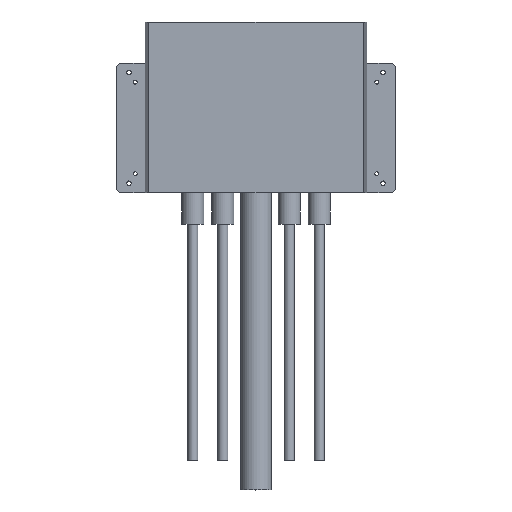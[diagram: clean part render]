
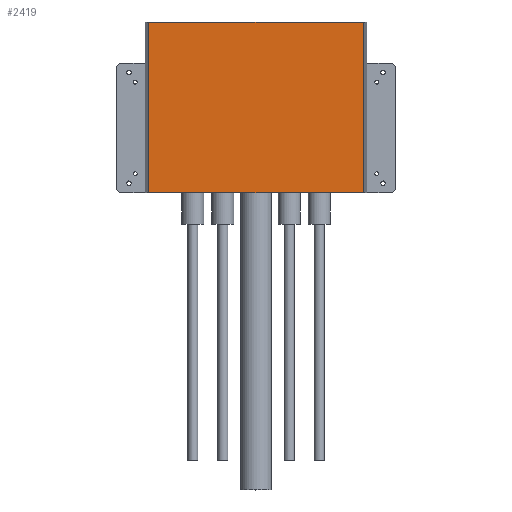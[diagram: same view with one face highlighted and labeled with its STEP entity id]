
A CAD part, top view. The second image highlights one B-rep face of the part: STEP entity #2419.
In plain terms, the highlighted planar face has unit normal (0, 0, 1) as drawn and (-1, 0, 0) by its records, which use the part's own axes.
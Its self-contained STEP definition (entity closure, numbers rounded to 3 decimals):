
#183=PLANE('',#2762);
#297=FACE_OUTER_BOUND('',#463,.T.);
#463=EDGE_LOOP('',(#1852,#1853,#1854,#1855));
#626=LINE('',#3724,#859);
#627=LINE('',#3727,#860);
#630=LINE('',#3743,#863);
#631=LINE('',#3744,#864);
#859=VECTOR('',#3090,10.);
#860=VECTOR('',#3093,10.);
#863=VECTOR('',#3108,10.);
#864=VECTOR('',#3109,10.);
#1179=VERTEX_POINT('',#3718);
#1181=VERTEX_POINT('',#3722);
#1182=VERTEX_POINT('',#3726);
#1189=VERTEX_POINT('',#3742);
#1430=EDGE_CURVE('',#1179,#1181,#626,.T.);
#1431=EDGE_CURVE('',#1182,#1179,#627,.T.);
#1439=EDGE_CURVE('',#1181,#1189,#630,.T.);
#1440=EDGE_CURVE('',#1189,#1182,#631,.T.);
#1852=ORIENTED_EDGE('',*,*,#1430,.T.);
#1853=ORIENTED_EDGE('',*,*,#1439,.T.);
#1854=ORIENTED_EDGE('',*,*,#1440,.T.);
#1855=ORIENTED_EDGE('',*,*,#1431,.T.);
#2419=ADVANCED_FACE('',(#297),#183,.F.);
#2762=AXIS2_PLACEMENT_3D('',#3741,#3106,#3107);
#3090=DIRECTION('',(0.,1.,0.));
#3093=DIRECTION('',(0.,0.,1.));
#3106=DIRECTION('center_axis',(1.,0.,0.));
#3107=DIRECTION('ref_axis',(0.,0.,-1.));
#3108=DIRECTION('',(0.,0.,-1.));
#3109=DIRECTION('',(0.,-1.,0.));
#3718=CARTESIAN_POINT('',(0.,0.,-5.));
#3722=CARTESIAN_POINT('',(0.,270.,-5.));
#3724=CARTESIAN_POINT('',(0.,202.5,-5.));
#3726=CARTESIAN_POINT('',(0.,0.,-345.));
#3727=CARTESIAN_POINT('',(0.,0.,-350.));
#3741=CARTESIAN_POINT('Origin',(0.,135.,-175.));
#3742=CARTESIAN_POINT('',(0.,270.,-345.));
#3743=CARTESIAN_POINT('',(0.,270.,0.));
#3744=CARTESIAN_POINT('',(0.,202.5,-345.));
